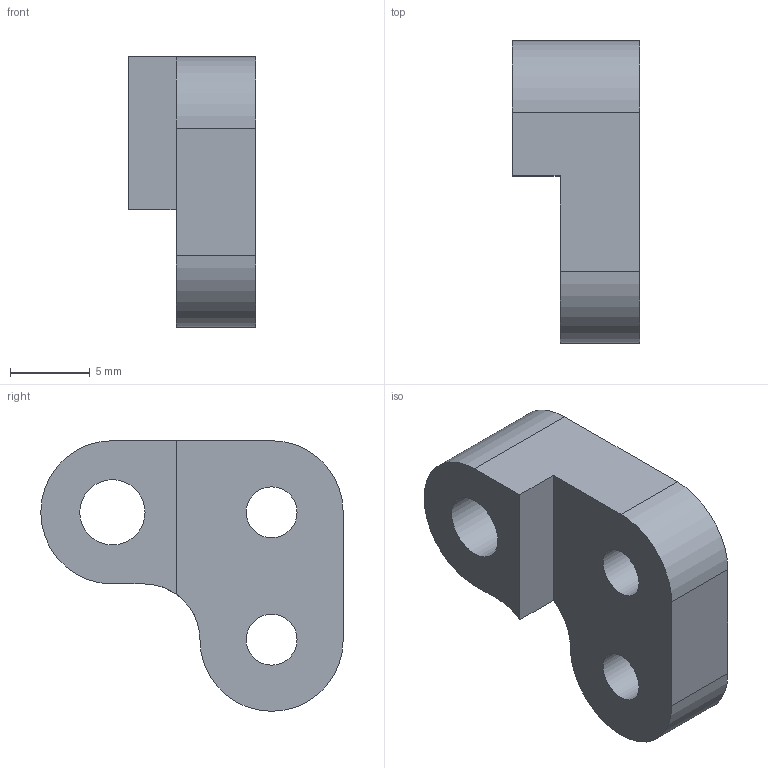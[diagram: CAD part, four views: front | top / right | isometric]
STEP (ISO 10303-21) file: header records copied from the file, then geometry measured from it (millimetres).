
FILE_DESCRIPTION(/* description */ (''),/* implementation_level */ '2;1');
FILE_NAME(/* name */ '1-20-2 Snout holder LRUL.step',/* time_stamp */ '2025-05-10T21:34:50+02:00',/* author */ (''),/* organization */ (''),/* preprocessor_version */ 'ST-DEVELOPER v20.1',/* originating_system */ 'Autodesk Translation Framework v14.4.0.0',/* authorisation */ '');
FILE_SCHEMA (('AUTOMOTIVE_DESIGN { 1 0 10303 214 3 1 1 }'));
Length unit declared in the file: millimetre
Products named in the file (1): 1-20-2 Snout holder LRUL
Bounding box: 8 x 19 x 17 mm (x, y, z)
Volume: 1138.1 mm3; surface area: 992.7 mm2
Topology: 1 solids, 1 shells, 14 faces, 36 edges, 24 vertices
Faces by surface type: cylinder 7, plane 7
Full cylindrical faces by diameter (mm): 3.2 x2, 4.1 x1
Entity records: 487 total; most frequent: DIRECTION 81, CARTESIAN_POINT 75, ORIENTED_EDGE 72, EDGE_CURVE 36, AXIS2_PLACEMENT_3D 30, VERTEX_POINT 24, LINE 21, VECTOR 21
